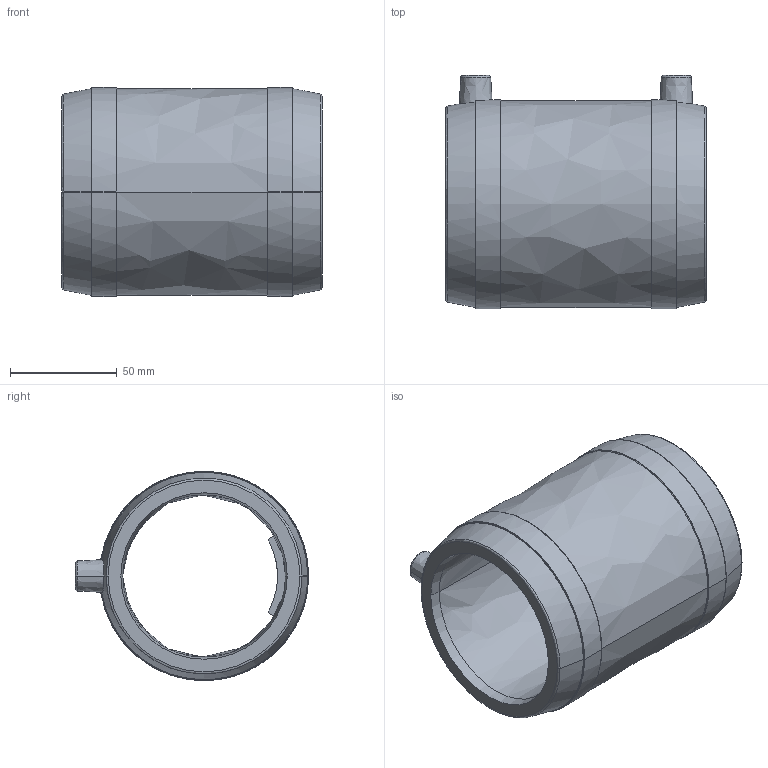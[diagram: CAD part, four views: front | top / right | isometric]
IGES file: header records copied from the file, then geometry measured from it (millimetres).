
Start section:  PTC IGES file: mb_d075_01.igs
Global section: file name: mb_d075_01.igs; native system: Pro/ENGINEER by Parametric Technology Corporation; preprocessor: 2011490; author: mtunjic; organization: Unknown; date: 20130805.164207; units: millimetre
Bounding box: 122 x 109.3 x 98 mm (x, y, z)
Surface area: 71909.6 mm2 (no closed solid volume)
Topology: 0 solids, 0 shells, 174 faces, 890 edges, 890 vertices
Faces by surface type: bspline 174
